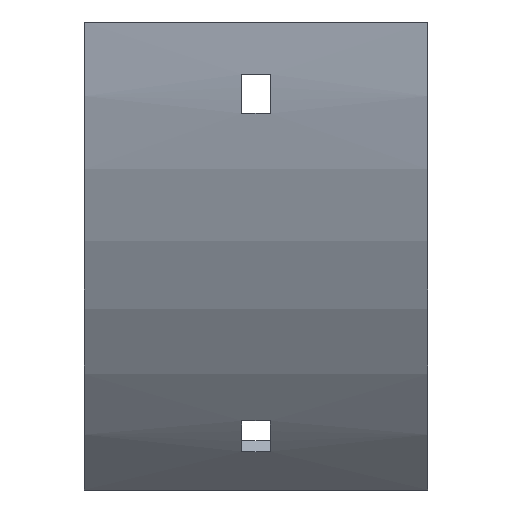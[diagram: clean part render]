
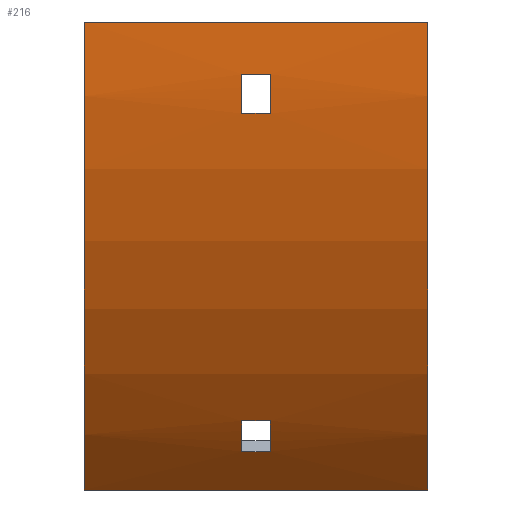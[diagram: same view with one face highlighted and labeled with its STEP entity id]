
A CAD part, front view. The second image highlights one B-rep face of the part: STEP entity #216.
In plain terms, the highlighted cylindrical face has radius 152 mm (diameter 304 mm), a partial arc.
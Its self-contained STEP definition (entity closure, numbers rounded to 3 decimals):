
#6 = CARTESIAN_POINT ( 'NONE',  ( 3.25, 100., 0. ) ) ;
#7 = VERTEX_POINT ( 'NONE', #1119 ) ;
#16 = VECTOR ( 'NONE', #255, 1000. ) ;
#17 = DIRECTION ( 'NONE',  ( 1., 0., 0. ) ) ;
#49 = CIRCLE ( 'NONE', #305, 152. ) ;
#67 = VECTOR ( 'NONE', #759, 1000. ) ;
#77 = VERTEX_POINT ( 'NONE', #133 ) ;
#79 = CARTESIAN_POINT ( 'NONE',  ( -3.25, 100., 0. ) ) ;
#90 = VERTEX_POINT ( 'NONE', #667 ) ;
#92 = EDGE_CURVE ( 'NONE', #672, #1150, #956, .T. ) ;
#108 = EDGE_CURVE ( 'NONE', #1150, #663, #326, .T. ) ;
#116 = EDGE_CURVE ( 'NONE', #90, #961, #504, .T. ) ;
#117 = VECTOR ( 'NONE', #1131, 1000. ) ;
#120 = CARTESIAN_POINT ( 'NONE',  ( -3.25, -15.63, -98.659 ) ) ;
#133 = CARTESIAN_POINT ( 'NONE',  ( 3.25, -51.526, -12. ) ) ;
#142 = EDGE_LOOP ( 'NONE', ( #1070, #955, #202, #382 ) ) ;
#145 = DIRECTION ( 'NONE',  ( 0., 0., 1. ) ) ;
#148 = EDGE_CURVE ( 'NONE', #663, #792, #916, .T. ) ;
#152 = CARTESIAN_POINT ( 'NONE',  ( -3.25, -50.542, -21. ) ) ;
#201 = EDGE_CURVE ( 'NONE', #824, #906, #592, .T. ) ;
#202 = ORIENTED_EDGE ( 'NONE', *, *, #640, .T. ) ;
#216 = ADVANCED_FACE ( 'NONE', ( #521, #878, #422 ), #779, .T. ) ;
#240 = ORIENTED_EDGE ( 'NONE', *, *, #697, .T. ) ;
#242 = CARTESIAN_POINT ( 'NONE',  ( -3.25, 100., 0. ) ) ;
#252 = DIRECTION ( 'NONE',  ( 0., 0., -1. ) ) ;
#255 = DIRECTION ( 'NONE',  ( 1., 0., 0. ) ) ;
#256 = CARTESIAN_POINT ( 'NONE',  ( 39.5, -50.542, -21. ) ) ;
#268 = DIRECTION ( 'NONE',  ( 0., 0., -1. ) ) ;
#291 = DIRECTION ( 'NONE',  ( 1., 0., 0. ) ) ;
#305 = AXIS2_PLACEMENT_3D ( 'NONE', #829, #652, #825 ) ;
#307 = CARTESIAN_POINT ( 'NONE',  ( -39.5, -52., 0. ) ) ;
#326 = LINE ( 'NONE', #1141, #344 ) ;
#344 = VECTOR ( 'NONE', #960, 1000. ) ;
#359 = DIRECTION ( 'NONE',  ( 0., 0., 1. ) ) ;
#362 = EDGE_LOOP ( 'NONE', ( #423, #461, #645, #985 ) ) ;
#366 = AXIS2_PLACEMENT_3D ( 'NONE', #6, #976, #268 ) ;
#378 = VERTEX_POINT ( 'NONE', #307 ) ;
#379 = CARTESIAN_POINT ( 'NONE',  ( 39.5, -15.63, -98.659 ) ) ;
#380 = CIRCLE ( 'NONE', #970, 152. ) ;
#382 = ORIENTED_EDGE ( 'NONE', *, *, #629, .T. ) ;
#422 = FACE_BOUND ( 'NONE', #362, .T. ) ;
#423 = ORIENTED_EDGE ( 'NONE', *, *, #148, .F. ) ;
#442 = DIRECTION ( 'NONE',  ( -1., 0., 0. ) ) ;
#461 = ORIENTED_EDGE ( 'NONE', *, *, #108, .F. ) ;
#481 = LINE ( 'NONE', #379, #699 ) ;
#485 = VECTOR ( 'NONE', #873, 1000. ) ;
#492 = CIRCLE ( 'NONE', #366, 152. ) ;
#504 = LINE ( 'NONE', #791, #485 ) ;
#521 = FACE_OUTER_BOUND ( 'NONE', #737, .T. ) ;
#539 = LINE ( 'NONE', #630, #16 ) ;
#542 = AXIS2_PLACEMENT_3D ( 'NONE', #242, #1051, #252 ) ;
#570 = CIRCLE ( 'NONE', #754, 152. ) ;
#582 = VERTEX_POINT ( 'NONE', #1050 ) ;
#592 = LINE ( 'NONE', #256, #117 ) ;
#629 = EDGE_CURVE ( 'NONE', #77, #824, #492, .T. ) ;
#630 = CARTESIAN_POINT ( 'NONE',  ( 39.5, -51.526, -12. ) ) ;
#632 = AXIS2_PLACEMENT_3D ( 'NONE', #1136, #691, #1045 ) ;
#640 = EDGE_CURVE ( 'NONE', #582, #77, #539, .T. ) ;
#645 = ORIENTED_EDGE ( 'NONE', *, *, #92, .F. ) ;
#652 = DIRECTION ( 'NONE',  ( 1., 0., 0. ) ) ;
#663 = VERTEX_POINT ( 'NONE', #794 ) ;
#667 = CARTESIAN_POINT ( 'NONE',  ( 39.5, -7.48, -107.48 ) ) ;
#670 = LINE ( 'NONE', #1026, #67 ) ;
#672 = VERTEX_POINT ( 'NONE', #998 ) ;
#691 = DIRECTION ( 'NONE',  ( -1., 0., 0. ) ) ;
#697 = EDGE_CURVE ( 'NONE', #378, #961, #570, .T. ) ;
#699 = VECTOR ( 'NONE', #291, 1000. ) ;
#737 = EDGE_LOOP ( 'NONE', ( #240, #999, #1006, #786 ) ) ;
#752 = AXIS2_PLACEMENT_3D ( 'NONE', #1024, #938, #145 ) ;
#754 = AXIS2_PLACEMENT_3D ( 'NONE', #808, #17, #1077 ) ;
#759 = DIRECTION ( 'NONE',  ( -1., 0., 0. ) ) ;
#779 = CYLINDRICAL_SURFACE ( 'NONE', #632, 152. ) ;
#786 = ORIENTED_EDGE ( 'NONE', *, *, #939, .T. ) ;
#791 = CARTESIAN_POINT ( 'NONE',  ( 39.5, -7.48, -107.48 ) ) ;
#792 = VERTEX_POINT ( 'NONE', #120 ) ;
#794 = CARTESIAN_POINT ( 'NONE',  ( -3.25, -21.299, -91.6 ) ) ;
#808 = CARTESIAN_POINT ( 'NONE',  ( -39.5, 100., 0. ) ) ;
#824 = VERTEX_POINT ( 'NONE', #935 ) ;
#825 = DIRECTION ( 'NONE',  ( 0., 0., -1. ) ) ;
#829 = CARTESIAN_POINT ( 'NONE',  ( 39.5, 100., 0. ) ) ;
#844 = EDGE_CURVE ( 'NONE', #7, #90, #49, .T. ) ;
#853 = EDGE_CURVE ( 'NONE', #792, #672, #481, .T. ) ;
#873 = DIRECTION ( 'NONE',  ( -1., 0., 0. ) ) ;
#878 = FACE_BOUND ( 'NONE', #142, .T. ) ;
#906 = VERTEX_POINT ( 'NONE', #152 ) ;
#916 = CIRCLE ( 'NONE', #542, 152. ) ;
#935 = CARTESIAN_POINT ( 'NONE',  ( 3.25, -50.542, -21. ) ) ;
#938 = DIRECTION ( 'NONE',  ( -1., 0., 0. ) ) ;
#939 = EDGE_CURVE ( 'NONE', #7, #378, #670, .T. ) ;
#942 = CARTESIAN_POINT ( 'NONE',  ( -39.5, -7.48, -107.48 ) ) ;
#955 = ORIENTED_EDGE ( 'NONE', *, *, #1076, .T. ) ;
#956 = CIRCLE ( 'NONE', #752, 152. ) ;
#960 = DIRECTION ( 'NONE',  ( -1., 0., 0. ) ) ;
#961 = VERTEX_POINT ( 'NONE', #942 ) ;
#970 = AXIS2_PLACEMENT_3D ( 'NONE', #79, #442, #359 ) ;
#976 = DIRECTION ( 'NONE',  ( 1., 0., 0. ) ) ;
#985 = ORIENTED_EDGE ( 'NONE', *, *, #853, .F. ) ;
#998 = CARTESIAN_POINT ( 'NONE',  ( 3.25, -15.63, -98.659 ) ) ;
#999 = ORIENTED_EDGE ( 'NONE', *, *, #116, .F. ) ;
#1006 = ORIENTED_EDGE ( 'NONE', *, *, #844, .F. ) ;
#1024 = CARTESIAN_POINT ( 'NONE',  ( 3.25, 100., 0. ) ) ;
#1026 = CARTESIAN_POINT ( 'NONE',  ( 39.5, -52., 0. ) ) ;
#1045 = DIRECTION ( 'NONE',  ( 0., 0., 1. ) ) ;
#1050 = CARTESIAN_POINT ( 'NONE',  ( -3.25, -51.526, -12. ) ) ;
#1051 = DIRECTION ( 'NONE',  ( 1., 0., 0. ) ) ;
#1070 = ORIENTED_EDGE ( 'NONE', *, *, #201, .T. ) ;
#1076 = EDGE_CURVE ( 'NONE', #906, #582, #380, .T. ) ;
#1077 = DIRECTION ( 'NONE',  ( 0., 0., -1. ) ) ;
#1082 = CARTESIAN_POINT ( 'NONE',  ( 3.25, -21.299, -91.6 ) ) ;
#1119 = CARTESIAN_POINT ( 'NONE',  ( 39.5, -52., 0. ) ) ;
#1131 = DIRECTION ( 'NONE',  ( -1., 0., 0. ) ) ;
#1136 = CARTESIAN_POINT ( 'NONE',  ( 39.5, 100., 0. ) ) ;
#1141 = CARTESIAN_POINT ( 'NONE',  ( 39.5, -21.299, -91.6 ) ) ;
#1150 = VERTEX_POINT ( 'NONE', #1082 ) ;
